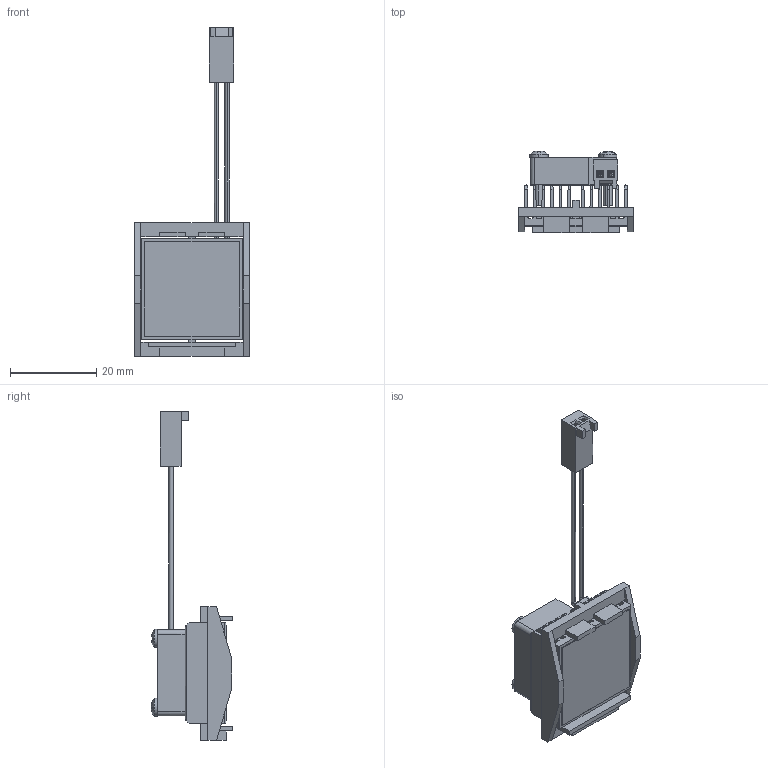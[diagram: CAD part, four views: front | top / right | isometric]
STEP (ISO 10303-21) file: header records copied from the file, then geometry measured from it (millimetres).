
FILE_DESCRIPTION (( 'STEP AP214' ), '1' );
FILE_NAME ('FI24-1.7+B.STEP', '2023-03-17T09:02:39', ( '' ), ( '' ), 'SwSTEP 2.0', 'SolidWorks 2020', '' );
FILE_SCHEMA (( 'AUTOMOTIVE_DESIGN' ));
Length unit declared in the file: millimetre
Products named in the file (1): FI24-1.7+B
Bounding box: 26.7 x 18.98 x 76.4 mm (x, y, z)
Volume: 5257.7 mm3; surface area: 11737.4 mm2
Topology: 10 solids, 10 shells, 408 faces, 1122 edges, 724 vertices
Faces by surface type: plane 246, cylinder 108, bspline 48, sphere 6
Entity records: 19671 total; most frequent: CARTESIAN_POINT 5136, ORIENTED_EDGE 2206, DIRECTION 1848, EDGE_CURVE 1103, VECTOR 736, LINE 736, VERTEX_POINT 724, AXIS2_PLACEMENT_3D 556
